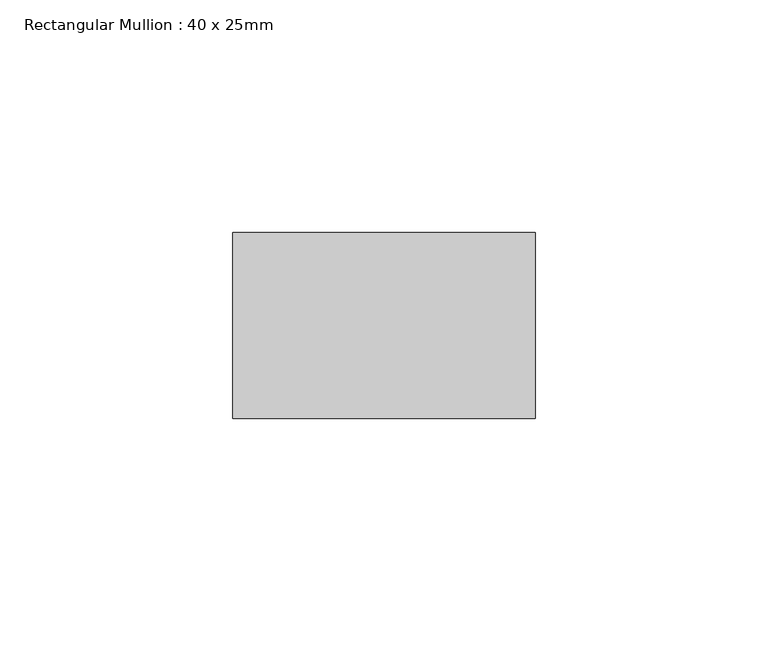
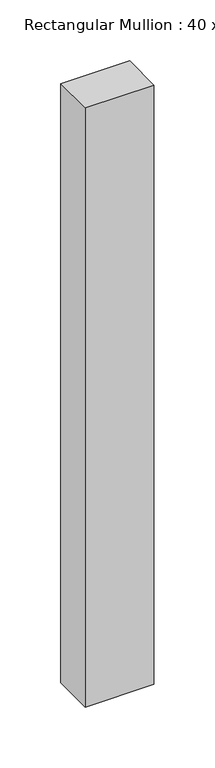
"""IFC4 building model written with IfcOpenShell, lengths in millimetres: member geometry, Rectangular Mullion : 40 x 25mm."""

import ifcopenshell
import ifcopenshell.guid

model = None  # the IFC model being written
_history = None  # IfcOwnerHistory: only IFC2X3 demands one
_inside = {}  # id of a spatial element -> (the spatial element, [elements in it])
_under = {}  # id of a project, library or spatial element -> (it, [spatial elements below it])
_declared = {}  # id of a project -> (the project, [libraries it declares])
_typed = {}  # id of a type object -> (the type object, [elements of that type])
_made_of = {}  # id of a material, layer set ... -> (it, [elements and type objects made of it])


def new_model(schema):
    """Start an empty IFC model of exactly this schema.

    Asked for "IFC4X3", IfcOpenShell would pick the latest addendum, in which some entities
    have other attributes; the version numbers below select the first issue.
    IFC2X3 requires an IfcOwnerHistory on every rooted entity: one is made here for all.
    """
    global model, _history
    if schema == "IFC4X3":
        model = ifcopenshell.file(schema_version=(4, 3, 0, 0))
    else:
        model = ifcopenshell.file(schema=schema)
    _inside.clear()
    _under.clear()
    _declared.clear()
    _typed.clear()
    _made_of.clear()
    _history = None
    if model.schema == "IFC2X3":
        org = make("IfcOrganization", Name="unknown")
        user = make(
            "IfcPersonAndOrganization",
            ThePerson=make("IfcPerson", FamilyName="unknown"),
            TheOrganization=org,
        )
        app = make(
            "IfcApplication",
            ApplicationDeveloper=org,
            Version="unknown",
            ApplicationFullName="unknown",
            ApplicationIdentifier="unknown",
        )
        _history = make(
            "IfcOwnerHistory",
            OwningUser=user,
            OwningApplication=app,
            ChangeAction="ADDED",
            CreationDate=0,
        )
    return model


def make(cls, **values):
    """One entity of the class cls with the attributes given. An attribute that is None is left unset."""
    return model.create_entity(
        cls, **{name: value for name, value in values.items() if value is not None}
    )


def rooted(cls, **values):
    """An entity with a GlobalId (a new one), such as an element, a storey or a relation."""
    return make(cls, GlobalId=ifcopenshell.guid.new(), OwnerHistory=_history, **values)


def si_unit(unit_type, name, prefix=None):
    """IfcSIUnit, for example si_unit("LENGTHUNIT", "METRE", prefix="MILLI")."""
    return make("IfcSIUnit", UnitType=unit_type, Prefix=prefix, Name=name)


def assignment(units):
    """IfcUnitAssignment: the units of a project."""
    return None if units is None else make("IfcUnitAssignment", Units=units)


def point(xyz):
    """IfcCartesianPoint."""
    return None if xyz is None else make("IfcCartesianPoint", Coordinates=xyz)


def direction(xyz):
    """IfcDirection."""
    return None if xyz is None else make("IfcDirection", DirectionRatios=xyz)


def frame(location, z_axis=None, x_axis=None):
    """IfcAxis2Placement3D, a coordinate frame: its origin and axes. An axis left out is left unset."""
    return make(
        "IfcAxis2Placement3D",
        Location=point(location),
        Axis=direction(z_axis),
        RefDirection=direction(x_axis),
    )


def origin():
    """The frame at (0, 0, 0) with its axes left unset."""
    return frame((0.0, 0.0, 0.0))


def place(relative_to, where):
    """IfcLocalPlacement: puts the frame where relative to a parent placement (None: the world)."""
    return make(
        "IfcLocalPlacement", PlacementRelTo=relative_to, RelativePlacement=where
    )


def context(
    kind, dimensions, precision=None, world=None, true_north=None, identifier=None
):
    """IfcGeometricRepresentationContext, for example the 3D "Model" context."""
    return make(
        "IfcGeometricRepresentationContext",
        ContextIdentifier=identifier,
        ContextType=kind,
        CoordinateSpaceDimension=dimensions,
        Precision=precision,
        WorldCoordinateSystem=world,
        TrueNorth=true_north,
    )


def project(units=None, contexts=None):
    """IfcProject with its units and contexts."""
    return rooted(
        "IfcProject",
        Name="project",
        RepresentationContexts=contexts,
        UnitsInContext=assignment(units),
    )


def spatial(cls, under=None, at=None, **own):
    """A site, building, storey or space (cls), placed at a placement, below another one or the project."""
    s = rooted(cls, ObjectPlacement=at, **own)
    if under is not None:
        _under.setdefault(under.id(), (under, []))[1].append(s)
    return s


def polyline(points):
    """IfcPolyline through the points."""
    return make("IfcPolyline", Points=[point(p) for p in points])


def outline(outer, holes=None, kind="AREA"):
    """IfcArbitraryClosedProfileDef: a profile drawn as a closed curve; with holes, ...WithVoids."""
    if holes is None:
        return make("IfcArbitraryClosedProfileDef", ProfileType=kind, OuterCurve=outer)
    return make(
        "IfcArbitraryProfileDefWithVoids",
        ProfileType=kind,
        OuterCurve=outer,
        InnerCurves=holes,
    )


def extrude(swept, where, along, depth):
    """IfcExtrudedAreaSolid: the profile swept, set in the frame where, extruded along a direction by depth."""
    return make(
        "IfcExtrudedAreaSolid",
        SweptArea=swept,
        Position=where,
        ExtrudedDirection=direction(along),
        Depth=depth,
    )


def shape(context_of_items, identifier, shape_type, items):
    """IfcShapeRepresentation: the items that make up one representation, for example the "Body"."""
    return make(
        "IfcShapeRepresentation",
        ContextOfItems=context_of_items,
        RepresentationIdentifier=identifier,
        RepresentationType=shape_type,
        Items=items,
    )


def source(mapping_origin, context_of_items, identifier, shape_type, items):
    """IfcRepresentationMap: a shape defined once, which mapped items show again and again."""
    return make(
        "IfcRepresentationMap",
        MappingOrigin=mapping_origin,
        MappedRepresentation=shape(context_of_items, identifier, shape_type, items),
    )


def transform(
    local_origin,
    x_axis=None,
    y_axis=None,
    z_axis=None,
    scale=None,
    scale2=None,
    scale3=None,
    uniform=True,
):
    """IfcCartesianTransformationOperator3D, or its non-uniform kind. x_axis, y_axis, z_axis: its Axis1, 2, 3."""
    if uniform:
        return make(
            "IfcCartesianTransformationOperator3D",
            Axis1=direction(x_axis),
            Axis2=direction(y_axis),
            LocalOrigin=point(local_origin),
            Scale=scale,
            Axis3=direction(z_axis),
        )
    return make(
        "IfcCartesianTransformationOperator3DnonUniform",
        Axis1=direction(x_axis),
        Axis2=direction(y_axis),
        LocalOrigin=point(local_origin),
        Scale=scale,
        Axis3=direction(z_axis),
        Scale2=scale2,
        Scale3=scale3,
    )


def mapped(mapping_source, mapping_target):
    """IfcMappedItem: shows the shape of a source again, moved by a transform."""
    return make(
        "IfcMappedItem", MappingSource=mapping_source, MappingTarget=mapping_target
    )


def made_of(thing, what):
    """Note that an element or type object is made of a material, layer set ...; save() writes the relation."""
    if what is not None:
        _made_of.setdefault(what.id(), (what, []))[1].append(thing)
    return thing


def element(
    cls,
    number,
    at=None,
    inside=None,
    cuts=None,
    type_object=None,
    material=None,
    context=None,
    identifier="Body",
    shape_type=None,
    held_by="IfcProductDefinitionShape",
    body=None,
    shapes=None,
    **own,
):
    """One element of the class cls, such as IfcWall. Its Tag is "e" and its number.

    at: its placement. inside: the storey or other place that contains it. cuts: it is an
    opening in that element (IfcRelVoidsElement). A single representation is given by context,
    identifier, shape_type and body (its items); several are given by shapes. held_by: the class
    of the entity that holds the representations. save() writes the other relations.
    """
    e = rooted(cls, Tag="e%d" % number, ObjectPlacement=at, **own)
    if body is not None:
        shapes = [shape(context, identifier, shape_type, body)]
    if shapes is not None:
        e.Representation = make(held_by, Representations=shapes)
    if inside is not None:
        _inside.setdefault(inside.id(), (inside, []))[1].append(e)
    if cuts is not None:
        rooted(
            "IfcRelVoidsElement", RelatingBuildingElement=cuts, RelatedOpeningElement=e
        )
    if type_object is not None:
        _typed.setdefault(type_object.id(), (type_object, []))[1].append(e)
    return made_of(e, material)


def aggregate(whole, parts):
    """IfcRelAggregates: a whole, such as a stair, and the parts it consists of."""
    return rooted("IfcRelAggregates", RelatingObject=whole, RelatedObjects=parts)


def save(model, path):
    """Write the relations noted so far, then the file.

    IfcRelAggregates (storeys below a building ...), IfcRelContainedInSpatialStructure (elements
    in a storey), IfcRelDefinesByType, IfcRelAssociatesMaterial and IfcRelDeclares: one each for
    every whole, place, type object, material and project.
    """
    for whole, parts in _under.values():
        aggregate(whole, parts)
    for where, things in _inside.values():
        rooted(
            "IfcRelContainedInSpatialStructure",
            RelatedElements=things,
            RelatingStructure=where,
        )
    for kind, things in _typed.values():
        rooted("IfcRelDefinesByType", RelatedObjects=things, RelatingType=kind)
    for what, things in _made_of.values():
        rooted("IfcRelAssociatesMaterial", RelatedObjects=things, RelatingMaterial=what)
    for by, libraries in _declared.values():
        rooted("IfcRelDeclares", RelatingContext=by, RelatedDefinitions=libraries)
    model.write(path)


def rectangular_mullion_40_x_25mm_ef285e68(model_context):
    return source(origin(), model_context, "Body", "SweptSolid", [
        extrude(outline(polyline([(0.0, -20.0), (0.0, -60.0), (-65.0, -60.0), (-65.0, -20.0), (0.0, -20.0)])), frame((0.0, 0.0, -600.0), z_axis=(0.0, 0.0, 1.0), x_axis=(1.0, 0.0, 0.0)), (0.0, 0.0, 1.0), 600.0),
    ])


if __name__ == "__main__":
    model = new_model("IFC4")
    model_context = context("Model", 3, world=origin())
    ifc_project = project(units=[si_unit("LENGTHUNIT", "METRE", prefix="MILLI")], contexts=[model_context])
    site = spatial("IfcSite", under=ifc_project)
    building = spatial("IfcBuilding", under=site)
    placement = place(None, origin())
    rectangular_mullion_40_x_25mm_shape = rectangular_mullion_40_x_25mm_ef285e68(model_context)
    element("IfcMember", 1, ObjectType="Rectangular Mullion : 40 x 25mm", at=placement, inside=building, context=model_context, shape_type="MappedRepresentation", body=[
        mapped(rectangular_mullion_40_x_25mm_shape, transform((0.0, 0.0, 0.0), x_axis=(1.0, 0.0, 0.0), y_axis=(0.0, 1.0, 0.0), z_axis=(0.0, 0.0, 1.0))),
    ])
    save(model, "model.ifc")
